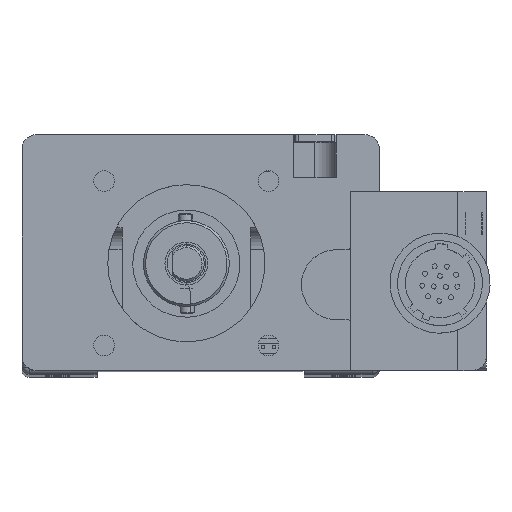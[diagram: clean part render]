
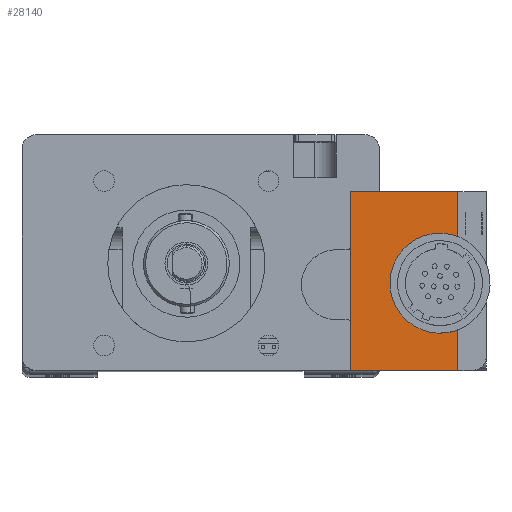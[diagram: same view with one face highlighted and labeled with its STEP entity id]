
A CAD part, top view. The second image highlights one B-rep face of the part: STEP entity #28140.
In plain terms, the highlighted planar face has unit normal (0, 0, 1).
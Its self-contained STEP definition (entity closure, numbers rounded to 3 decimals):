
#36 = CARTESIAN_POINT ( 'NONE',  ( 33.5, 7.6, 273. ) ) ;
#195 = DIRECTION ( 'NONE',  ( 0., 0., 1. ) ) ;
#882 = CARTESIAN_POINT ( 'NONE',  ( 21., 0.5, 273. ) ) ;
#891 = ORIENTED_EDGE ( 'NONE', *, *, #121351, .T. ) ;
#4171 = LINE ( 'NONE', #21604, #96130 ) ;
#4636 = DIRECTION ( 'NONE',  ( -1., 0., 0. ) ) ;
#5738 = VERTEX_POINT ( 'NONE', #74373 ) ;
#6203 = VECTOR ( 'NONE', #38573, 1000. ) ;
#6393 = CARTESIAN_POINT ( 'NONE',  ( 36., 25.5, 273. ) ) ;
#9350 = LINE ( 'NONE', #36, #6203 ) ;
#10130 = DIRECTION ( 'NONE',  ( 0., -1., 0. ) ) ;
#12583 = CARTESIAN_POINT ( 'NONE',  ( 21., 25.5, 273. ) ) ;
#13032 = CARTESIAN_POINT ( 'NONE',  ( 36., 25.5, 273. ) ) ;
#15726 = LINE ( 'NONE', #6393, #51653 ) ;
#17440 = ORIENTED_EDGE ( 'NONE', *, *, #47830, .T. ) ;
#19203 = CARTESIAN_POINT ( 'NONE',  ( 38., 25.5, 273. ) ) ;
#20565 = ORIENTED_EDGE ( 'NONE', *, *, #83144, .F. ) ;
#21604 = CARTESIAN_POINT ( 'NONE',  ( 38., 25.5, 273. ) ) ;
#21959 = DIRECTION ( 'NONE',  ( 0., 0., 1. ) ) ;
#22476 = VERTEX_POINT ( 'NONE', #882 ) ;
#22962 = AXIS2_PLACEMENT_3D ( 'NONE', #76539, #195, #75920 ) ;
#23015 = DIRECTION ( 'NONE',  ( 0., -1., 0. ) ) ;
#23193 = VERTEX_POINT ( 'NONE', #37140 ) ;
#23586 = DIRECTION ( 'NONE',  ( 0., -1., 0. ) ) ;
#24820 = LINE ( 'NONE', #13032, #96708 ) ;
#25012 = CARTESIAN_POINT ( 'NONE',  ( 33.5, 17.4, 273. ) ) ;
#25035 = DIRECTION ( 'NONE',  ( 0., 1., 0. ) ) ;
#28140 = ADVANCED_FACE ( 'NONE', ( #66351 ), #29773, .F. ) ;
#29666 = ORIENTED_EDGE ( 'NONE', *, *, #44076, .F. ) ;
#29701 = EDGE_LOOP ( 'NONE', ( #29666, #115395, #20565, #17440, #114231, #56013, #29859, #891, #114264, #71087 ) ) ;
#29773 = PLANE ( 'NONE',  #107304 ) ;
#29859 = ORIENTED_EDGE ( 'NONE', *, *, #91189, .F. ) ;
#31297 = CARTESIAN_POINT ( 'NONE',  ( 35., 6.6, 273. ) ) ;
#34235 = CARTESIAN_POINT ( 'NONE',  ( 33.5, 17.4, 273. ) ) ;
#37140 = CARTESIAN_POINT ( 'NONE',  ( 36., 25.5, 273. ) ) ;
#38573 = DIRECTION ( 'NONE',  ( 1., 0., 0. ) ) ;
#41347 = VECTOR ( 'NONE', #10130, 1000. ) ;
#44076 = EDGE_CURVE ( 'NONE', #5738, #83585, #73981, .T. ) ;
#44417 = EDGE_CURVE ( 'NONE', #83585, #118625, #63918, .T. ) ;
#44877 = DIRECTION ( 'NONE',  ( -1., 0., 0. ) ) ;
#47830 = EDGE_CURVE ( 'NONE', #23193, #78448, #4171, .T. ) ;
#48151 = EDGE_CURVE ( 'NONE', #75599, #22476, #51216, .T. ) ;
#48385 = DIRECTION ( 'NONE',  ( 0., 0., -1. ) ) ;
#48456 = EDGE_CURVE ( 'NONE', #5738, #70765, #60605, .T. ) ;
#49815 = CARTESIAN_POINT ( 'NONE',  ( 21., 25.5, 273. ) ) ;
#50335 = CARTESIAN_POINT ( 'NONE',  ( 33.5, 12.5, 273. ) ) ;
#51216 = LINE ( 'NONE', #51824, #118005 ) ;
#51653 = VECTOR ( 'NONE', #119343, 1000. ) ;
#51824 = CARTESIAN_POINT ( 'NONE',  ( 38., 0.5, 273. ) ) ;
#56013 = ORIENTED_EDGE ( 'NONE', *, *, #48151, .F. ) ;
#58693 = CARTESIAN_POINT ( 'NONE',  ( 35., 7.6, 273. ) ) ;
#60605 = CIRCLE ( 'NONE', #22962, 1. ) ;
#63918 = CIRCLE ( 'NONE', #99602, 4.9 ) ;
#63922 = CARTESIAN_POINT ( 'NONE',  ( 36., 18.4, 273. ) ) ;
#64407 = EDGE_CURVE ( 'NONE', #78448, #22476, #105085, .T. ) ;
#65850 = CARTESIAN_POINT ( 'NONE',  ( 36., 0.5, 273. ) ) ;
#66351 = FACE_OUTER_BOUND ( 'NONE', #29701, .T. ) ;
#68945 = DIRECTION ( 'NONE',  ( 0., 0., 1. ) ) ;
#70765 = VERTEX_POINT ( 'NONE', #63922 ) ;
#71087 = ORIENTED_EDGE ( 'NONE', *, *, #44417, .F. ) ;
#73981 = LINE ( 'NONE', #25012, #101460 ) ;
#74373 = CARTESIAN_POINT ( 'NONE',  ( 35., 17.4, 273. ) ) ;
#75599 = VERTEX_POINT ( 'NONE', #65850 ) ;
#75920 = DIRECTION ( 'NONE',  ( 0., 1., 0. ) ) ;
#76539 = CARTESIAN_POINT ( 'NONE',  ( 35., 18.4, 273. ) ) ;
#78448 = VERTEX_POINT ( 'NONE', #49815 ) ;
#79870 = DIRECTION ( 'NONE',  ( -1., 0., 0. ) ) ;
#83144 = EDGE_CURVE ( 'NONE', #23193, #70765, #15726, .T. ) ;
#83585 = VERTEX_POINT ( 'NONE', #34235 ) ;
#86272 = CIRCLE ( 'NONE', #116030, 1. ) ;
#87176 = VERTEX_POINT ( 'NONE', #58693 ) ;
#91189 = EDGE_CURVE ( 'NONE', #111682, #75599, #24820, .T. ) ;
#96130 = VECTOR ( 'NONE', #79870, 1000. ) ;
#96522 = CARTESIAN_POINT ( 'NONE',  ( 36., 6.6, 273. ) ) ;
#96708 = VECTOR ( 'NONE', #23586, 1000. ) ;
#99602 = AXIS2_PLACEMENT_3D ( 'NONE', #50335, #68945, #23015 ) ;
#101170 = CARTESIAN_POINT ( 'NONE',  ( 33.5, 7.6, 273. ) ) ;
#101460 = VECTOR ( 'NONE', #44877, 1000. ) ;
#103390 = EDGE_CURVE ( 'NONE', #118625, #87176, #9350, .T. ) ;
#105085 = LINE ( 'NONE', #12583, #41347 ) ;
#107304 = AXIS2_PLACEMENT_3D ( 'NONE', #19203, #48385, #112904 ) ;
#111682 = VERTEX_POINT ( 'NONE', #96522 ) ;
#112904 = DIRECTION ( 'NONE',  ( 0., 1., 0. ) ) ;
#114231 = ORIENTED_EDGE ( 'NONE', *, *, #64407, .T. ) ;
#114264 = ORIENTED_EDGE ( 'NONE', *, *, #103390, .F. ) ;
#115395 = ORIENTED_EDGE ( 'NONE', *, *, #48456, .T. ) ;
#116030 = AXIS2_PLACEMENT_3D ( 'NONE', #31297, #21959, #25035 ) ;
#118005 = VECTOR ( 'NONE', #4636, 1000. ) ;
#118625 = VERTEX_POINT ( 'NONE', #101170 ) ;
#119343 = DIRECTION ( 'NONE',  ( 0., -1., 0. ) ) ;
#121351 = EDGE_CURVE ( 'NONE', #111682, #87176, #86272, .T. ) ;
